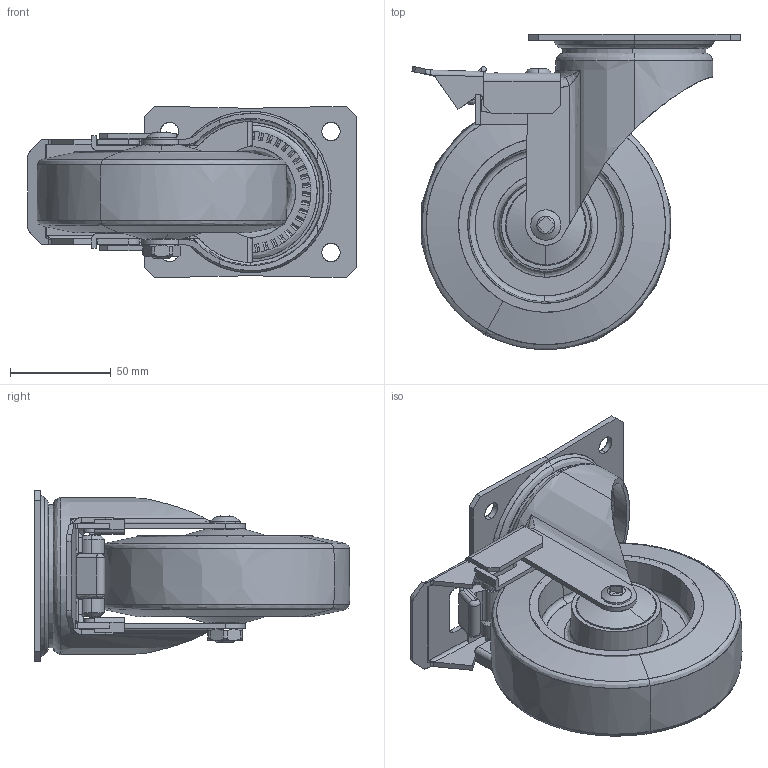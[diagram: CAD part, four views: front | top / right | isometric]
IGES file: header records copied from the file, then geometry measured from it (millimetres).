
Start section: SolidWorks IGES file using analytic representation for surfaces
Global section: file name: S:\Tyokansio\ML\3DWEBMALLIT\LK\RÄTTADE\IGES\400551_IGES.IGS; native system: SolidWorks 2011; preprocessor: SolidWorks 2011; author: markola; date: 121008.082415; units: millimetre
Bounding box: 162.77 x 156.18 x 85 mm (x, y, z)
Surface area: 129915.8 mm2 (no closed solid volume)
Topology: 0 solids, 0 shells, 552 faces, 8474 edges, 8470 vertices
Faces by surface type: bspline 345, revolution 207
